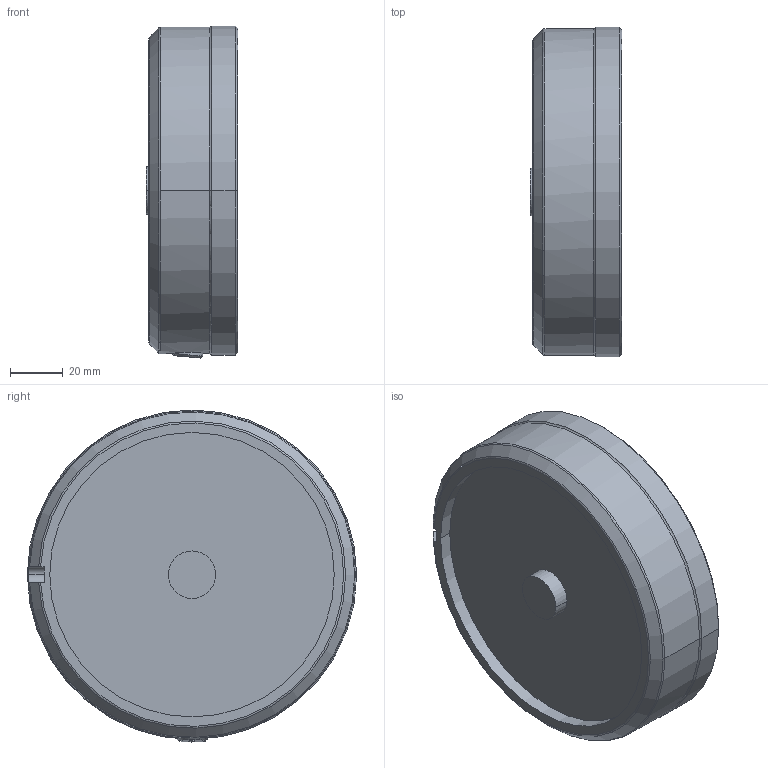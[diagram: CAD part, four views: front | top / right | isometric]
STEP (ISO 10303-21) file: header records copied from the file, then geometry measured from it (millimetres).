
FILE_DESCRIPTION (( 'STEP AP214' ), '1' );
FILE_NAME ('IRB5710-MH3_90kg-270_OmniCore_rev00_LINK06_CAD.step', '2025-07-08T11:36:18', ( '' ), ( '' ), 'SwSTEP 2.0', 'SolidWorks 2024', '' );
FILE_SCHEMA (( 'AUTOMOTIVE_DESIGN' ));
Length unit declared in the file: millimetre
Products named in the file (1): IRB5710-MH3_90kg-270_OmniCore_rev00_LINK06_CAD
Bounding box: 34.9 x 125 x 126.02 mm (x, y, z)
Volume: 293464.8 mm3; surface area: 51993.8 mm2
Topology: 1 solids, 1 shells, 130 faces, 310 edges, 192 vertices
Faces by surface type: cylinder 70, plane 32, cone 22, torus 4, bspline 2
Entity records: 4015 total; most frequent: CARTESIAN_POINT 913, DIRECTION 683, ORIENTED_EDGE 592, EDGE_CURVE 296, AXIS2_PLACEMENT_3D 277, VERTEX_POINT 192, EDGE_LOOP 154, CIRCLE 148
